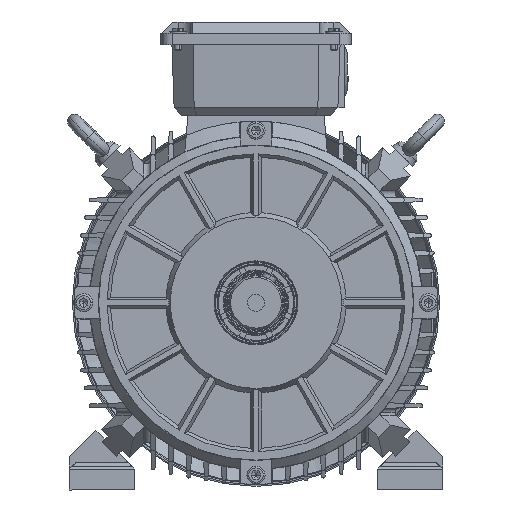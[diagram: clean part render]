
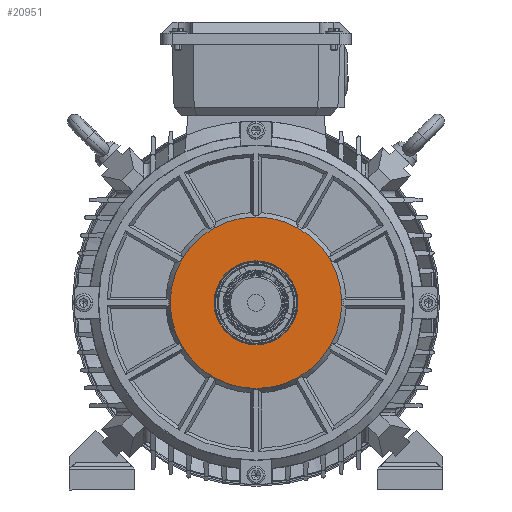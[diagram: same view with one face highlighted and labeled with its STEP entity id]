
A CAD part, left-side view. The second image highlights one B-rep face of the part: STEP entity #20951.
In plain terms, the highlighted planar face has unit normal (-1, 0, 0).
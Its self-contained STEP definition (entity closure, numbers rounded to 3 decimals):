
#268 = AXIS2_PLACEMENT_3D ( 'NONE', #70622, #72143, #141855 ) ;
#8802 = AXIS2_PLACEMENT_3D ( 'NONE', #32731, #80475, #33490 ) ;
#13240 = FACE_OUTER_BOUND ( 'NONE', #110085, .T. ) ;
#13544 = EDGE_CURVE ( 'NONE', #86217, #22101, #14939, .T. ) ;
#14124 = AXIS2_PLACEMENT_3D ( 'NONE', #88443, #52420, #63388 ) ;
#14939 = CIRCLE ( 'NONE', #99850, 29.577 ) ;
#20951 = ADVANCED_FACE ( 'NONE', ( #13240, #23441 ), #50014, .F. ) ;
#22101 = VERTEX_POINT ( 'NONE', #73060 ) ;
#22933 = ORIENTED_EDGE ( 'NONE', *, *, #109674, .F. ) ;
#23441 = FACE_BOUND ( 'NONE', #120466, .T. ) ;
#25566 = ORIENTED_EDGE ( 'NONE', *, *, #146025, .T. ) ;
#29084 = CIRCLE ( 'NONE', #14124, 60.5 ) ;
#32214 = EDGE_CURVE ( 'NONE', #55905, #148554, #60155, .T. ) ;
#32731 = CARTESIAN_POINT ( 'NONE',  ( -152.99, -2.924, -1.988 ) ) ;
#33490 = DIRECTION ( 'NONE',  ( 0., 0., 1. ) ) ;
#35213 = DIRECTION ( 'NONE',  ( 1., 0., 0. ) ) ;
#48795 = CIRCLE ( 'NONE', #8802, 29.577 ) ;
#50014 = PLANE ( 'NONE',  #60825 ) ;
#51090 = CARTESIAN_POINT ( 'NONE',  ( -152.99, -2.924, 58.512 ) ) ;
#52420 = DIRECTION ( 'NONE',  ( -1., 0., 0. ) ) ;
#55905 = VERTEX_POINT ( 'NONE', #51090 ) ;
#60045 = ORIENTED_EDGE ( 'NONE', *, *, #13544, .F. ) ;
#60155 = CIRCLE ( 'NONE', #268, 60.5 ) ;
#60825 = AXIS2_PLACEMENT_3D ( 'NONE', #154963, #35213, #107964 ) ;
#63388 = DIRECTION ( 'NONE',  ( 0., 0., 1. ) ) ;
#70622 = CARTESIAN_POINT ( 'NONE',  ( -152.99, -2.924, -1.988 ) ) ;
#72143 = DIRECTION ( 'NONE',  ( -1., 0., 0. ) ) ;
#73060 = CARTESIAN_POINT ( 'NONE',  ( -152.99, -2.924, -31.566 ) ) ;
#80475 = DIRECTION ( 'NONE',  ( -1., 0., 0. ) ) ;
#86217 = VERTEX_POINT ( 'NONE', #88561 ) ;
#88443 = CARTESIAN_POINT ( 'NONE',  ( -152.99, -2.924, -1.988 ) ) ;
#88561 = CARTESIAN_POINT ( 'NONE',  ( -152.99, -2.924, 27.589 ) ) ;
#91424 = DIRECTION ( 'NONE',  ( -1., 0., 0. ) ) ;
#91742 = ORIENTED_EDGE ( 'NONE', *, *, #32214, .T. ) ;
#99850 = AXIS2_PLACEMENT_3D ( 'NONE', #112550, #91424, #103149 ) ;
#103149 = DIRECTION ( 'NONE',  ( 0., 0., 1. ) ) ;
#103439 = CARTESIAN_POINT ( 'NONE',  ( -152.99, -2.924, -62.488 ) ) ;
#107964 = DIRECTION ( 'NONE',  ( 0., -1., 0. ) ) ;
#109674 = EDGE_CURVE ( 'NONE', #22101, #86217, #48795, .T. ) ;
#110085 = EDGE_LOOP ( 'NONE', ( #25566, #91742 ) ) ;
#112550 = CARTESIAN_POINT ( 'NONE',  ( -152.99, -2.924, -1.988 ) ) ;
#120466 = EDGE_LOOP ( 'NONE', ( #60045, #22933 ) ) ;
#141855 = DIRECTION ( 'NONE',  ( 0., 0., 1. ) ) ;
#146025 = EDGE_CURVE ( 'NONE', #148554, #55905, #29084, .T. ) ;
#148554 = VERTEX_POINT ( 'NONE', #103439 ) ;
#154963 = CARTESIAN_POINT ( 'NONE',  ( -152.99, 26.654, -1.988 ) ) ;
